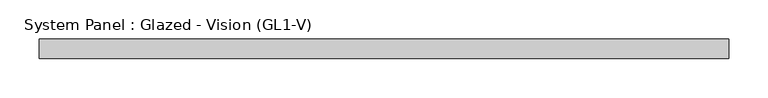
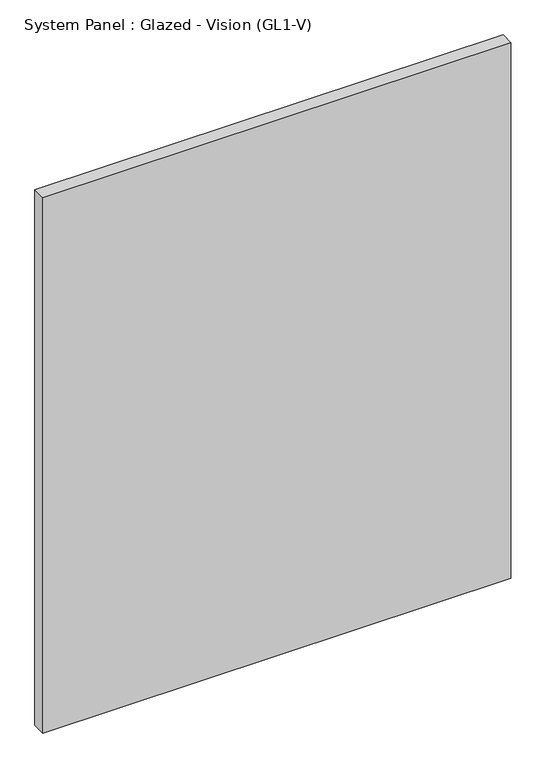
"""IFC4 building model written with IfcOpenShell, lengths in millimetres: plate geometry, System Panel : Glazed - Vision (GL1-V)."""

from ifc_helpers import new_model, si_unit, origin, origin_with_axes, place, context, project, spatial, polyline, outline, extrude, source, transform, mapped, element, save


def system_panel_glazed_vision_gl1_v_36a169a0(model_context):
    return source(origin(), model_context, "Body", "SweptSolid", [
        extrude(outline(polyline([(441.325, -25.4), (-441.325, -25.4), (-441.325, 0.0), (441.325, 0.0), (441.325, -25.4)])), origin_with_axes(), (0.0, 0.0, 1.0), 1066.8000021),
    ])


if __name__ == "__main__":
    model = new_model("IFC4")
    model_context = context("Model", 3, world=origin())
    ifc_project = project(units=[si_unit("LENGTHUNIT", "METRE", prefix="MILLI")], contexts=[model_context])
    site = spatial("IfcSite", under=ifc_project)
    building = spatial("IfcBuilding", under=site)
    placement = place(None, origin())
    system_panel_glazed_vision_gl1_v_shape = system_panel_glazed_vision_gl1_v_36a169a0(model_context)
    element("IfcPlate", 1, ObjectType="System Panel : Glazed - Vision (GL1-V)", at=placement, inside=building, context=model_context, shape_type="MappedRepresentation", body=[
        mapped(system_panel_glazed_vision_gl1_v_shape, transform((0.0, 0.0, 0.0), x_axis=(1.0, 0.0, 0.0), y_axis=(0.0, 1.0, 0.0), z_axis=(0.0, 0.0, 1.0))),
    ])
    save(model, "model.ifc")
